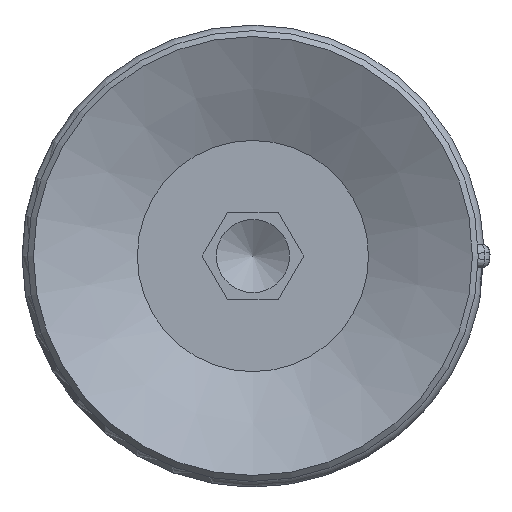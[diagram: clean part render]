
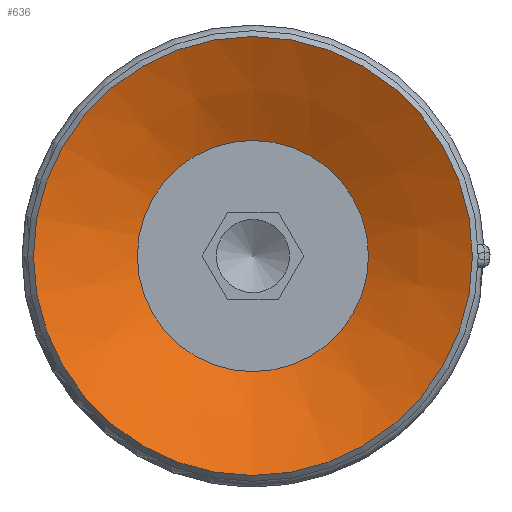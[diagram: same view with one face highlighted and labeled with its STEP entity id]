
A CAD part, front view. The second image highlights one B-rep face of the part: STEP entity #636.
In plain terms, the highlighted conical face has half-angle 64 degrees and reference radius 3.95 mm.
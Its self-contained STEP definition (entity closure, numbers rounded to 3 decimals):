
#636=ADVANCED_FACE('',(#980,#981),#982,.F.);
#980=FACE_BOUND('',#1507,.T.);
#981=FACE_OUTER_BOUND('',#1508,.T.);
#982=CONICAL_SURFACE('',#1509,3.95,1.117);
#1507=EDGE_LOOP('',(#2657));
#1508=EDGE_LOOP('',(#2658));
#1509=AXIS2_PLACEMENT_3D('',#2659,#2660,#2661);
#2657=ORIENTED_EDGE('',*,*,#3191,.F.);
#2658=ORIENTED_EDGE('',*,*,#3187,.T.);
#2659=CARTESIAN_POINT('',(0.0,-29.404,-47.168));
#2660=DIRECTION('',(-0.0,0.,1.0));
#2661=DIRECTION('',(0.0,-1.0,0.));
#3187=EDGE_CURVE('',#3648,#3648,#3649,.T.);
#3191=EDGE_CURVE('',#3656,#3656,#3657,.T.);
#3648=VERTEX_POINT('',#4792);
#3649=CIRCLE('',#4793,7.5);
#3656=VERTEX_POINT('',#4800);
#3657=CIRCLE('',#4801,3.95);
#4792=CARTESIAN_POINT('',(0.0,-36.904,-45.437));
#4793=AXIS2_PLACEMENT_3D('',#5603,#5604,#5605);
#4800=CARTESIAN_POINT('',(0.0,-33.354,-47.168));
#4801=AXIS2_PLACEMENT_3D('',#5615,#5616,#5617);
#5603=CARTESIAN_POINT('',(0.0,-29.404,-45.437));
#5604=DIRECTION('',(0.0,0.,1.0));
#5605=DIRECTION('',(0.0,-1.0,0.));
#5615=CARTESIAN_POINT('',(0.0,-29.404,-47.168));
#5616=DIRECTION('',(0.0,0.,1.0));
#5617=DIRECTION('',(0.0,-1.0,0.));
